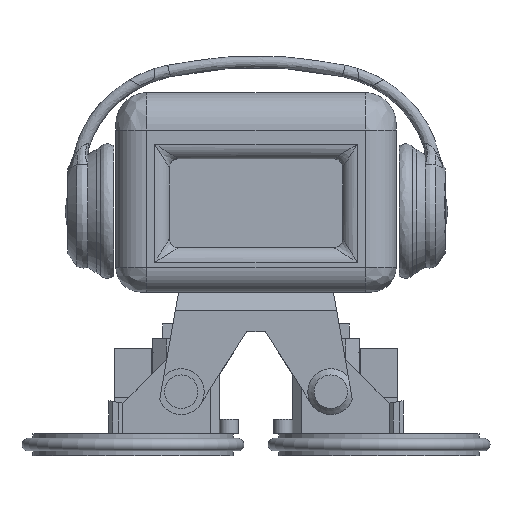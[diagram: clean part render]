
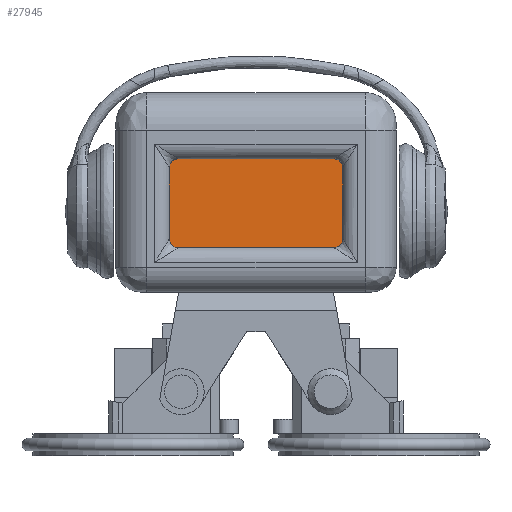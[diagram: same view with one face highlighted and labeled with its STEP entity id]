
A CAD part, front view. The second image highlights one B-rep face of the part: STEP entity #27945.
In plain terms, the highlighted planar face has unit normal (0, -1, 0).
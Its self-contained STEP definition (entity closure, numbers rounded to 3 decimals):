
#2117=CIRCLE('',#30217,0.5);
#2118=CIRCLE('',#30220,0.5);
#2119=CIRCLE('',#30223,0.5);
#2120=CIRCLE('',#30226,0.5);
#3454=FACE_OUTER_BOUND('',#5154,.T.);
#5154=EDGE_LOOP('',(#23601,#23602,#23603,#23604,#23605,#23606,#23607,#23608));
#7731=LINE('',#48401,#10458);
#7735=LINE('',#48410,#10462);
#7738=LINE('',#48418,#10465);
#7741=LINE('',#48426,#10468);
#10458=VECTOR('',#35994,10.);
#10462=VECTOR('',#36004,10.);
#10465=VECTOR('',#36013,10.);
#10468=VECTOR('',#36022,10.);
#13064=VERTEX_POINT('',#48398);
#13065=VERTEX_POINT('',#48400);
#13066=VERTEX_POINT('',#48404);
#13067=VERTEX_POINT('',#48408);
#13068=VERTEX_POINT('',#48412);
#13069=VERTEX_POINT('',#48416);
#13070=VERTEX_POINT('',#48420);
#13071=VERTEX_POINT('',#48424);
#16690=EDGE_CURVE('',#13064,#13065,#7731,.T.);
#16693=EDGE_CURVE('',#13066,#13064,#2117,.T.);
#16695=EDGE_CURVE('',#13067,#13066,#7735,.T.);
#16697=EDGE_CURVE('',#13068,#13067,#2118,.T.);
#16699=EDGE_CURVE('',#13069,#13068,#7738,.T.);
#16701=EDGE_CURVE('',#13070,#13069,#2119,.T.);
#16703=EDGE_CURVE('',#13071,#13070,#7741,.T.);
#16704=EDGE_CURVE('',#13065,#13071,#2120,.T.);
#23601=ORIENTED_EDGE('',*,*,#16704,.F.);
#23602=ORIENTED_EDGE('',*,*,#16690,.F.);
#23603=ORIENTED_EDGE('',*,*,#16693,.F.);
#23604=ORIENTED_EDGE('',*,*,#16695,.F.);
#23605=ORIENTED_EDGE('',*,*,#16697,.F.);
#23606=ORIENTED_EDGE('',*,*,#16699,.F.);
#23607=ORIENTED_EDGE('',*,*,#16701,.F.);
#23608=ORIENTED_EDGE('',*,*,#16703,.F.);
#26548=PLANE('',#30227);
#27945=ADVANCED_FACE('',(#3454),#26548,.T.);
#30217=AXIS2_PLACEMENT_3D('',#48406,#35999,#36000);
#30220=AXIS2_PLACEMENT_3D('',#48414,#36008,#36009);
#30223=AXIS2_PLACEMENT_3D('',#48422,#36017,#36018);
#30226=AXIS2_PLACEMENT_3D('',#48428,#36025,#36026);
#30227=AXIS2_PLACEMENT_3D('',#48429,#36027,#36028);
#35994=DIRECTION('',(0.,0.,-1.));
#35999=DIRECTION('center_axis',(0.,1.,0.));
#36000=DIRECTION('ref_axis',(1.,0.,0.));
#36004=DIRECTION('',(1.,0.,0.));
#36008=DIRECTION('center_axis',(0.,1.,0.));
#36009=DIRECTION('ref_axis',(0.,0.,
1.));
#36013=DIRECTION('',(0.,0.,1.));
#36017=DIRECTION('center_axis',(0.,1.,0.));
#36018=DIRECTION('ref_axis',(-1.,0.,0.));
#36022=DIRECTION('',(-1.,0.,0.));
#36025=DIRECTION('center_axis',(0.,1.,0.));
#36026=DIRECTION('ref_axis',(0.,0.,
-1.));
#36027=DIRECTION('center_axis',(0.,-1.,0.));
#36028=DIRECTION('ref_axis',(-1.,0.,0.));
#48398=CARTESIAN_POINT('',(188.245,-66.487,-49.325));
#48400=CARTESIAN_POINT('',(188.245,-66.487,-77.825));
#48401=CARTESIAN_POINT('',(188.245,-66.487,-49.325));
#48404=CARTESIAN_POINT('',(187.745,-66.487,-48.825));
#48406=CARTESIAN_POINT('Origin',(187.745,-66.487,-49.325));
#48408=CARTESIAN_POINT('',(132.145,-66.487,-48.825));
#48410=CARTESIAN_POINT('',(132.145,-66.487,-48.825));
#48412=CARTESIAN_POINT('',(131.645,-66.487,-49.325));
#48414=CARTESIAN_POINT('Origin',(132.145,-66.487,-49.325));
#48416=CARTESIAN_POINT('',(131.645,-66.487,-77.825));
#48418=CARTESIAN_POINT('',(131.645,-66.487,-77.825));
#48420=CARTESIAN_POINT('',(132.145,-66.487,-78.325));
#48422=CARTESIAN_POINT('Origin',(132.145,-66.487,-77.825));
#48424=CARTESIAN_POINT('',(187.745,-66.487,-78.325));
#48426=CARTESIAN_POINT('',(187.745,-66.487,-78.325));
#48428=CARTESIAN_POINT('Origin',(187.745,-66.487,-77.825));
#48429=CARTESIAN_POINT('Origin',(159.945,-66.487,-63.575));
